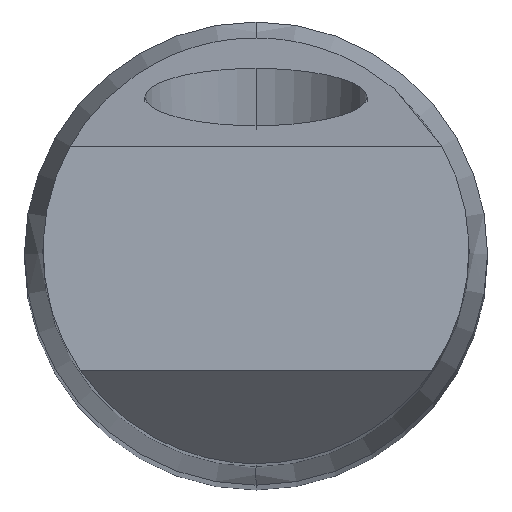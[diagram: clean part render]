
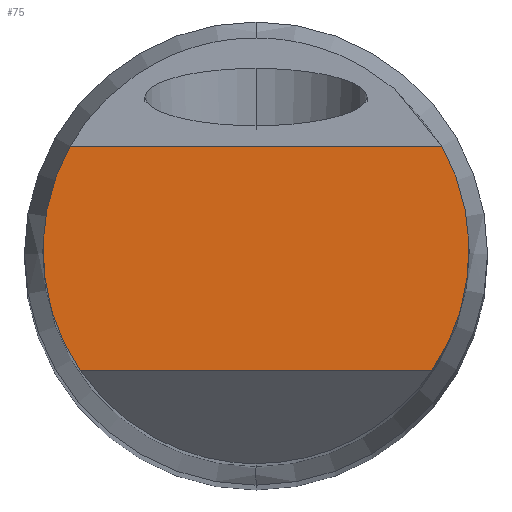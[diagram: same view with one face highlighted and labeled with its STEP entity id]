
A CAD part, top view. The second image highlights one B-rep face of the part: STEP entity #75.
In plain terms, the highlighted planar face has unit normal (0, 0, 1).
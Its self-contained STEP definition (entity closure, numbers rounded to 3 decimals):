
#75=ADVANCED_FACE('',(#101),#100,.T.);
#100=PLANE('',#356);
#101=FACE_OUTER_BOUND('',#357,.T.);
#353=CARTESIAN_POINT('',(-16.223,6.823,0.));
#354=DIRECTION('',(0.,0.,1.));
#355=DIRECTION('',(0.,-1.,0.));
#356=AXIS2_PLACEMENT_3D('',#353,#354,#355);
#357=EDGE_LOOP('',(#563,#564,#565,#566));
#563=ORIENTED_EDGE('',*,*,#663,.F.);
#564=ORIENTED_EDGE('',*,*,#664,.T.);
#565=ORIENTED_EDGE('',*,*,#665,.F.);
#566=ORIENTED_EDGE('',*,*,#666,.F.);
#663=EDGE_CURVE('',#713,#714,#715,.T.);
#664=EDGE_CURVE('',#713,#721,#722,.T.);
#665=EDGE_CURVE('',#728,#721,#729,.T.);
#666=EDGE_CURVE('',#714,#728,#735,.T.);
#713=VERTEX_POINT('',#1043);
#714=VERTEX_POINT('',#1044);
#715=CIRCLE('',#1048,11.5);
#721=VERTEX_POINT('',#1049);
#722=LINE('',#1050,#1051);
#728=VERTEX_POINT('',#1053);
#729=CIRCLE('',#1057,11.5);
#735=LINE('',#1058,#1059);
#1043=CARTESIAN_POINT('',(-9.487,-6.5,0.));
#1044=CARTESIAN_POINT('',(-10.038,5.612,0.));
#1045=CARTESIAN_POINT('',(0.,0.,0.));
#1046=DIRECTION('',(0.,0.,-1.));
#1047=DIRECTION('',(0.,-1.,0.));
#1048=AXIS2_PLACEMENT_3D('',#1045,#1046,#1047);
#1049=CARTESIAN_POINT('',(9.487,-6.5,0.));
#1050=CARTESIAN_POINT('',(-9.487,-6.5,0.));
#1051=VECTOR('',#1052,18.974);
#1052=DIRECTION('',(1.,0.,0.));
#1053=CARTESIAN_POINT('',(10.038,5.612,0.));
#1054=CARTESIAN_POINT('',(0.,0.,0.));
#1055=DIRECTION('',(0.,0.,-1.));
#1056=DIRECTION('',(0.,-1.,0.));
#1057=AXIS2_PLACEMENT_3D('',#1054,#1055,#1056);
#1058=CARTESIAN_POINT('',(-10.038,5.612,0.));
#1059=VECTOR('',#1060,20.076);
#1060=DIRECTION('',(1.,0.,0.));
